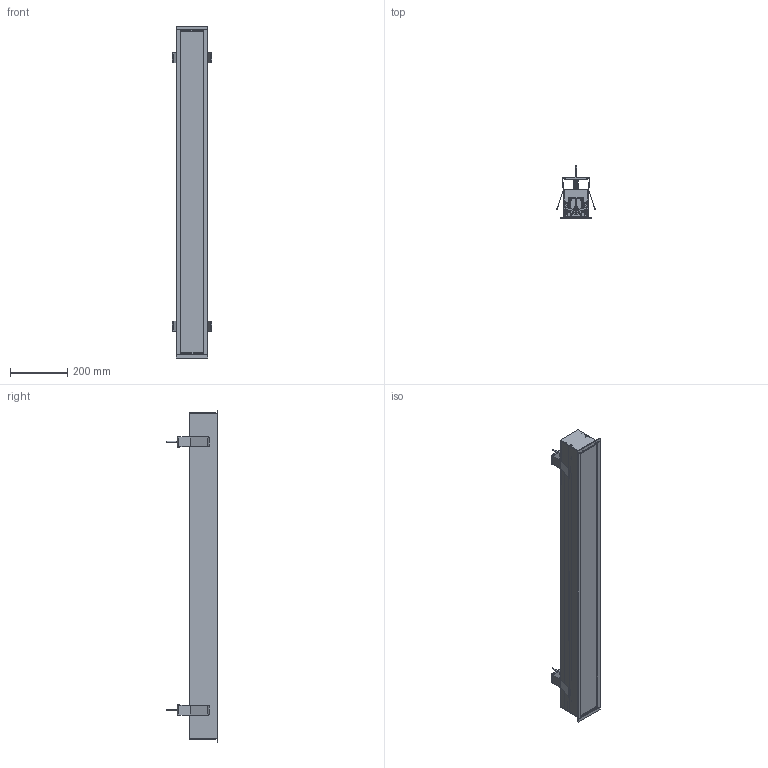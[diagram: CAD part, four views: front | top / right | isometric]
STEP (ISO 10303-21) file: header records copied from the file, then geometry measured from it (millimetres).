
FILE_DESCRIPTION(/* description */ (''),/* implementation_level */ '2;1');
FILE_NAME(/* name */ 'C:\Users\nathan\OneDrive - M LIGHT PTY LTD (1)\Engineering\CAD\PRODUCT ASSEMBLIES\SIGURI X (Ver 2)\Concept\Plastic Extrusion\CAD Simplified\Siguri X2 REC 4B Assembly.stp',/* time_stamp */ '2024-11-06T16:09:40+11:00',/* author */ ('nathan'),/* organization */ (''),/* preprocessor_version */ 'ST-DEVELOPER v18.1',/* originating_system */ 'Autodesk Inventor 2022',/* authorisation */ '');
FILE_SCHEMA (('AUTOMOTIVE_DESIGN { 1 0 10303 214 3 1 1 }'));
Length unit declared in the file: millimetre
Products named in the file (18): Siguri X2 REC 4B Assembly - Simplified; Siguri 2 Rec; JIS B 1111 - Csunk M4 x 10 - H; Siguri2 Ext REC End Cap; JIS B 1111 - Csunk M4 x 8 - H; Siguri2 Ext End Cap Bracket; ISO 4026 - M4 x 5; RF0013 - Spring Conical REV C; X105 Recess Body Bracket; JIS B 1111 - A M4 x 40 - H; Internal Body REPla 5; IP Strain Relief (5 Core); Air Vents; Internal Body REPla Inny Endcap 5; JIS B 1111 - Csunk M4 x 12 - H; Internal Body REPla Inny Endcap 5_1; Blaupunkt Bracket; ISO 7045 - M4 x 5 - 4.8 - H
Assembly tree (50 placements, depth 2):
  Siguri X2 REC 4B Assembly - Simplified
    Siguri 2 Rec
    Siguri2 Ext REC End Cap  x2
    JIS B 1111 - Csunk M4 x 10 - H
    JIS B 1111 - Csunk M4 x 8 - H  x3
    Siguri2 Ext End Cap Bracket  x2
    ISO 4026 - M4 x 5  x4
    RF0013 - Spring Conical REV C  x2
    X105 Recess Body Bracket  x2
    JIS B 1111 - A M4 x 40 - H  x2
    Internal Body REPla 5
    IP Strain Relief (5 Core)
    Air Vents
    JIS B 1111 - Csunk M4 x 12 - H  x12
    Internal Body REPla Inny Endcap 5_1  x2
    Internal Body REPla Inny Endcap 5  x2
    Blaupunkt Bracket  x4
    ISO 7045 - M4 x 5 - 4.8 - H  x8
Bounding box: 136.92 x 182 x 1164 mm (x, y, z)
Volume: 6451064.8 mm3; surface area: 1387595.5 mm2
Topology: 50 solids, 50 shells, 2715 faces, 7045 edges, 4466 vertices
Faces by surface type: plane 1103, cylinder 698, cone 396, bspline 250, torus 242, sphere 26
Full cylindrical faces by diameter (mm): 3.2 x4, 3.571 x18, 3.621 x8, 4 x30, 4.1 x8, 4.5 x6, 5 x2, 7.2 x2, 8.4 x16, 10 x2, 21 x2, 24 x1, 28 x1
Entity records: 47172 total; most frequent: CARTESIAN_POINT 16839, ORIENTED_EDGE 6280, DIRECTION 6193, EDGE_CURVE 3140, AXIS2_PLACEMENT_3D 2319, VERTEX_POINT 2010, LINE 1555, VECTOR 1555
